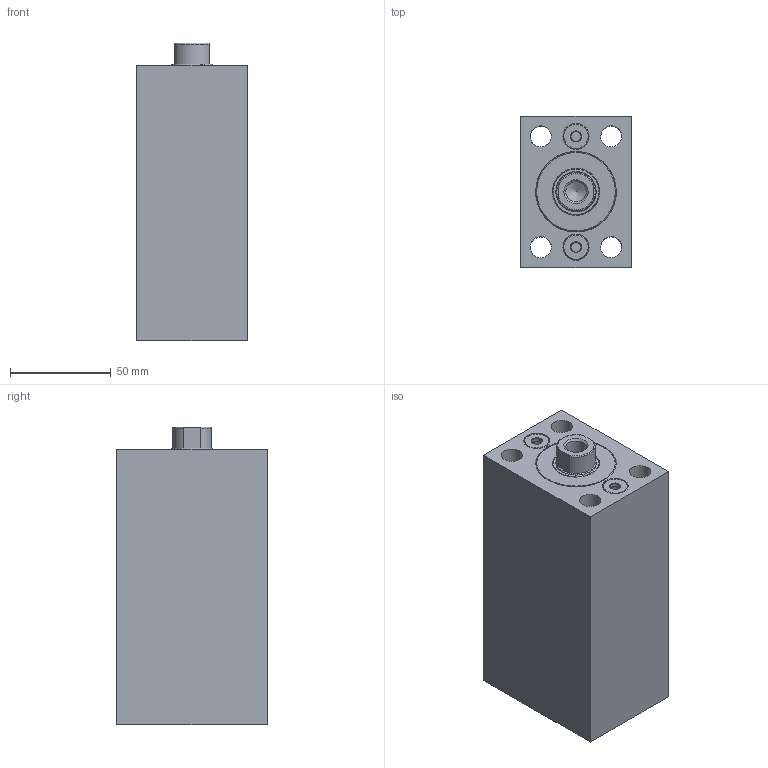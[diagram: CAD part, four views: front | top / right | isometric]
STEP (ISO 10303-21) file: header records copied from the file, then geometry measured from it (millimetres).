
FILE_DESCRIPTION( ( 'STEP AP203' ), '1' );
FILE_NAME( 'C:/Users/SAYKO.ltd/Desktop/SBZ100/07/SBZ100-32/SBZ100.32__FORM_07_STROKE_65__H2_47_POS_0_.stp', ' ', ( ' ' ), ( ' ' ), 'PSStep 15.0.47', 'PARTsolutions', ' ' );
FILE_SCHEMA( ( 'CONFIG_CONTROL_DESIGN' ) );
Length unit declared in the file: millimetre
Products named in the file (5): SBZ100.32  FORM=07 STROKE=65 (H2=47 POS=0); HI_SBZ10032  FORM=07 STROKE=65 H2=47 -C; HI_SBZ10032  FORM=07 STROKE=65-R; HI_SBZ100.32-C; HI_SBZ100.32-S
Assembly tree (4 placements, depth 2):
  SBZ100.32  FORM=07 STROKE=65 (H2=47 POS=0)
    HI_SBZ10032  FORM=07 STROKE=65 H2=47 -C
    HI_SBZ10032  FORM=07 STROKE=65-R
    HI_SBZ100.32-C
    HI_SBZ100.32-S
Bounding box: 55 x 75 x 148 mm (x, y, z)
Volume: 477147.9 mm3; surface area: 98686.9 mm2
Topology: 4 solids, 4 shells, 74 faces, 136 edges, 87 vertices
Faces by surface type: plane 33, cylinder 28, cone 10, torus 3
Full cylindrical faces by diameter (mm): 5 x4, 10.106 x1, 10.5 x4, 13 x2, 18 x4, 20 x4, 23.5 x1, 28 x2, 32 x2, 40 x2
Entity records: 3847 total; most frequent: CARTESIAN_POINT 2517, ORIENTED_EDGE 188, DIRECTION 178, EDGE_LOOP 140, FACE_OUTER_BOUND 101, EDGE_CURVE 94, VERTEX_POINT 83, AXIS2_PLACEMENT_3D 81
